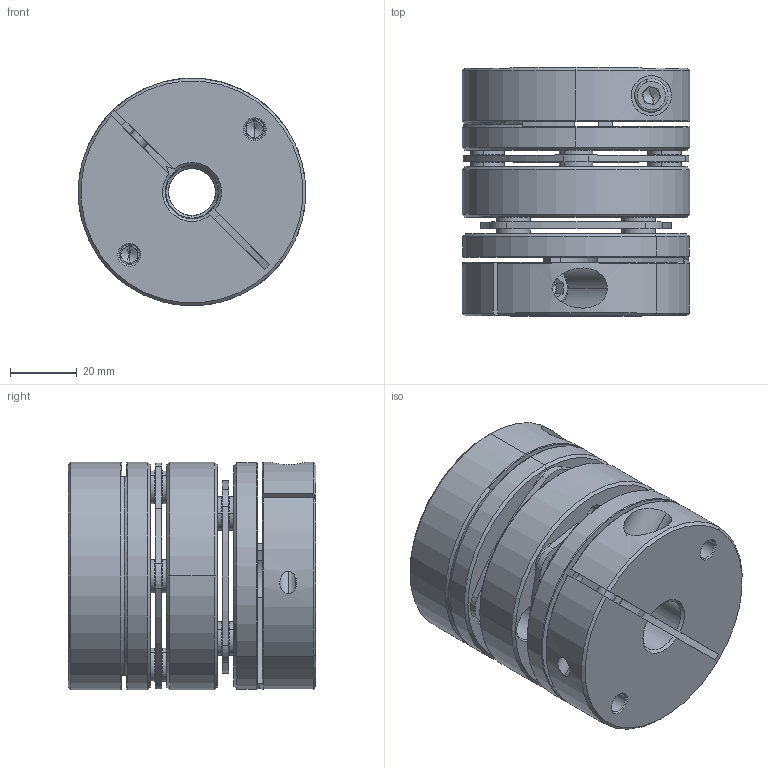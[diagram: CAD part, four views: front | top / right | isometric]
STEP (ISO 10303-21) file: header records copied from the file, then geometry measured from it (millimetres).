
FILE_DESCRIPTION (( 'STEP AP203' ), '1' );
FILE_NAME ('LD2-D68-14-16.STEP', '2021-10-26T08:10:31', ( '' ), ( '' ), 'SwSTEP 2.0', 'SolidWorks 2018', '' );
FILE_SCHEMA (( 'CONFIG_CONTROL_DESIGN' ));
Length unit declared in the file: millimetre
Products named in the file (2): LD2-D68-14-16; 錨璃102^LD2-D68
Assembly tree (1 placements, depth 2):
  LD2-D68-14-16
    錨璃102^LD2-D68
Bounding box: 68 x 74 x 68 mm (x, y, z)
Volume: 195932.6 mm3; surface area: 65206.5 mm2
Topology: 1 solids, 27 shells, 736 faces, 1728 edges, 1052 vertices
Faces by surface type: cylinder 256, cone 226, plane 224, torus 30
Entity records: 21710 total; most frequent: DIRECTION 4034, CARTESIAN_POINT 3962, ORIENTED_EDGE 3408, EDGE_CURVE 1704, AXIS2_PLACEMENT_3D 1636, VERTEX_POINT 1052, CIRCLE 896, EDGE_LOOP 872
